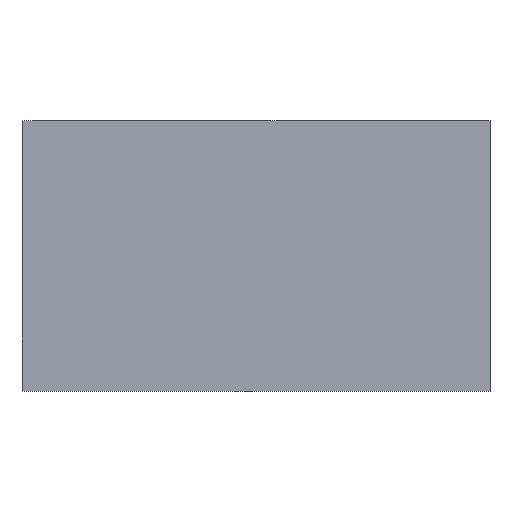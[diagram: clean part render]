
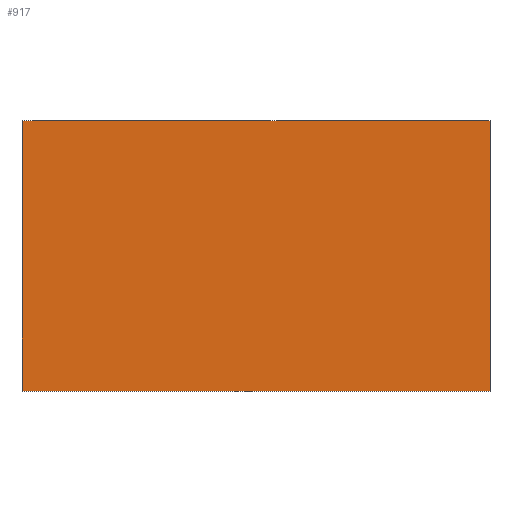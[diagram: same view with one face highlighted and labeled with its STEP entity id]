
A CAD part, top view. The second image highlights one B-rep face of the part: STEP entity #917.
In plain terms, the highlighted planar face has unit normal (0, 0, 1).
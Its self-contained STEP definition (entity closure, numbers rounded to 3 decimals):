
#24 = VERTEX_POINT('',#25);
#25 = CARTESIAN_POINT('',(-70.175,-40.5,5.));
#32 = PLANE('',#33);
#33 = AXIS2_PLACEMENT_3D('',#34,#35,#36);
#34 = CARTESIAN_POINT('',(-70.175,-40.5,-5.));
#35 = DIRECTION('',(1.,0.,-0.));
#36 = DIRECTION('',(0.,0.,1.));
#44 = PLANE('',#45);
#45 = AXIS2_PLACEMENT_3D('',#46,#47,#48);
#46 = CARTESIAN_POINT('',(-70.175,-40.5,-5.));
#47 = DIRECTION('',(-0.,1.,0.));
#48 = DIRECTION('',(0.,0.,1.));
#85 = VERTEX_POINT('',#86);
#86 = CARTESIAN_POINT('',(-70.175,40.5,5.));
#100 = PLANE('',#101);
#101 = AXIS2_PLACEMENT_3D('',#102,#103,#104);
#102 = CARTESIAN_POINT('',(-70.175,40.5,-5.));
#103 = DIRECTION('',(-0.,1.,0.));
#104 = DIRECTION('',(0.,0.,1.));
#112 = EDGE_CURVE('',#24,#85,#113,.T.);
#113 = SURFACE_CURVE('',#114,(#118,#125),.PCURVE_S1.);
#114 = LINE('',#115,#116);
#115 = CARTESIAN_POINT('',(-70.175,-40.5,5.));
#116 = VECTOR('',#117,1.);
#117 = DIRECTION('',(-0.,1.,0.));
#118 = PCURVE('',#32,#119);
#119 = DEFINITIONAL_REPRESENTATION('',(#120),#124);
#120 = LINE('',#121,#122);
#121 = CARTESIAN_POINT('',(10.,0.));
#122 = VECTOR('',#123,1.);
#123 = DIRECTION('',(0.,-1.));
#124 = ( GEOMETRIC_REPRESENTATION_CONTEXT(2) 
PARAMETRIC_REPRESENTATION_CONTEXT() REPRESENTATION_CONTEXT('2D SPACE',''
  ) );
#125 = PCURVE('',#126,#131);
#126 = PLANE('',#127);
#127 = AXIS2_PLACEMENT_3D('',#128,#129,#130);
#128 = CARTESIAN_POINT('',(-70.175,-40.5,5.));
#129 = DIRECTION('',(0.,0.,1.));
#130 = DIRECTION('',(1.,0.,-0.));
#131 = DEFINITIONAL_REPRESENTATION('',(#132),#136);
#132 = LINE('',#133,#134);
#133 = CARTESIAN_POINT('',(0.,0.));
#134 = VECTOR('',#135,1.);
#135 = DIRECTION('',(0.,1.));
#136 = ( GEOMETRIC_REPRESENTATION_CONTEXT(2) 
PARAMETRIC_REPRESENTATION_CONTEXT() REPRESENTATION_CONTEXT('2D SPACE',''
  ) );
#181 = PLANE('',#182);
#182 = AXIS2_PLACEMENT_3D('',#183,#184,#185);
#183 = CARTESIAN_POINT('',(70.175,-40.5,-5.));
#184 = DIRECTION('',(1.,0.,-0.));
#185 = DIRECTION('',(0.,0.,1.));
#217 = EDGE_CURVE('',#218,#220,#222,.T.);
#218 = VERTEX_POINT('',#219);
#219 = CARTESIAN_POINT('',(70.175,-40.5,5.));
#220 = VERTEX_POINT('',#221);
#221 = CARTESIAN_POINT('',(70.175,40.5,5.));
#222 = SURFACE_CURVE('',#223,(#227,#234),.PCURVE_S1.);
#223 = LINE('',#224,#225);
#224 = CARTESIAN_POINT('',(70.175,-40.5,5.));
#225 = VECTOR('',#226,1.);
#226 = DIRECTION('',(-0.,1.,0.));
#227 = PCURVE('',#181,#228);
#228 = DEFINITIONAL_REPRESENTATION('',(#229),#233);
#229 = LINE('',#230,#231);
#230 = CARTESIAN_POINT('',(10.,0.));
#231 = VECTOR('',#232,1.);
#232 = DIRECTION('',(0.,-1.));
#233 = ( GEOMETRIC_REPRESENTATION_CONTEXT(2) 
PARAMETRIC_REPRESENTATION_CONTEXT() REPRESENTATION_CONTEXT('2D SPACE',''
  ) );
#234 = PCURVE('',#126,#235);
#235 = DEFINITIONAL_REPRESENTATION('',(#236),#240);
#236 = LINE('',#237,#238);
#237 = CARTESIAN_POINT('',(140.35,0.));
#238 = VECTOR('',#239,1.);
#239 = DIRECTION('',(0.,1.));
#240 = ( GEOMETRIC_REPRESENTATION_CONTEXT(2) 
PARAMETRIC_REPRESENTATION_CONTEXT() REPRESENTATION_CONTEXT('2D SPACE',''
  ) );
#890 = EDGE_CURVE('',#220,#85,#891,.T.);
#891 = SURFACE_CURVE('',#892,(#896,#903),.PCURVE_S1.);
#892 = LINE('',#893,#894);
#893 = CARTESIAN_POINT('',(70.175,40.5,5.));
#894 = VECTOR('',#895,1.);
#895 = DIRECTION('',(-1.,0.,0.));
#896 = PCURVE('',#100,#897);
#897 = DEFINITIONAL_REPRESENTATION('',(#898),#902);
#898 = LINE('',#899,#900);
#899 = CARTESIAN_POINT('',(10.,140.35));
#900 = VECTOR('',#901,1.);
#901 = DIRECTION('',(0.,-1.));
#902 = ( GEOMETRIC_REPRESENTATION_CONTEXT(2) 
PARAMETRIC_REPRESENTATION_CONTEXT() REPRESENTATION_CONTEXT('2D SPACE',''
  ) );
#903 = PCURVE('',#126,#904);
#904 = DEFINITIONAL_REPRESENTATION('',(#905),#909);
#905 = LINE('',#906,#907);
#906 = CARTESIAN_POINT('',(140.35,81.));
#907 = VECTOR('',#908,1.);
#908 = DIRECTION('',(-1.,0.));
#909 = ( GEOMETRIC_REPRESENTATION_CONTEXT(2) 
PARAMETRIC_REPRESENTATION_CONTEXT() REPRESENTATION_CONTEXT('2D SPACE',''
  ) );
#917 = ADVANCED_FACE('',(#918),#126,.T.);
#918 = FACE_BOUND('',#919,.T.);
#919 = EDGE_LOOP('',(#920,#921,#942,#943));
#920 = ORIENTED_EDGE('',*,*,#112,.F.);
#921 = ORIENTED_EDGE('',*,*,#922,.T.);
#922 = EDGE_CURVE('',#24,#218,#923,.T.);
#923 = SURFACE_CURVE('',#924,(#928,#935),.PCURVE_S1.);
#924 = LINE('',#925,#926);
#925 = CARTESIAN_POINT('',(-70.175,-40.5,5.));
#926 = VECTOR('',#927,1.);
#927 = DIRECTION('',(1.,0.,-0.));
#928 = PCURVE('',#126,#929);
#929 = DEFINITIONAL_REPRESENTATION('',(#930),#934);
#930 = LINE('',#931,#932);
#931 = CARTESIAN_POINT('',(0.,0.));
#932 = VECTOR('',#933,1.);
#933 = DIRECTION('',(1.,0.));
#934 = ( GEOMETRIC_REPRESENTATION_CONTEXT(2) 
PARAMETRIC_REPRESENTATION_CONTEXT() REPRESENTATION_CONTEXT('2D SPACE',''
  ) );
#935 = PCURVE('',#44,#936);
#936 = DEFINITIONAL_REPRESENTATION('',(#937),#941);
#937 = LINE('',#938,#939);
#938 = CARTESIAN_POINT('',(10.,0.));
#939 = VECTOR('',#940,1.);
#940 = DIRECTION('',(0.,1.));
#941 = ( GEOMETRIC_REPRESENTATION_CONTEXT(2) 
PARAMETRIC_REPRESENTATION_CONTEXT() REPRESENTATION_CONTEXT('2D SPACE',''
  ) );
#942 = ORIENTED_EDGE('',*,*,#217,.T.);
#943 = ORIENTED_EDGE('',*,*,#890,.T.);
